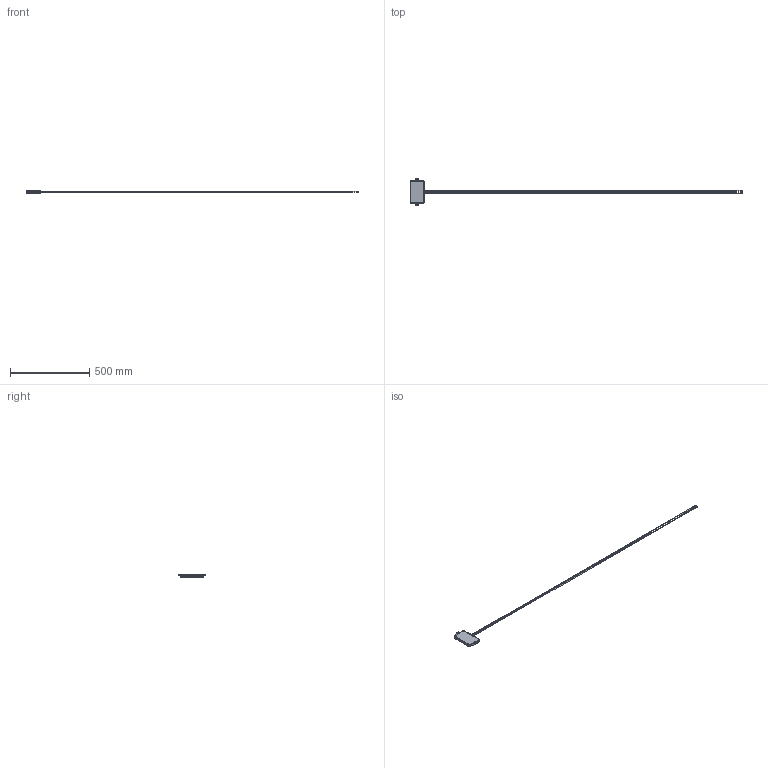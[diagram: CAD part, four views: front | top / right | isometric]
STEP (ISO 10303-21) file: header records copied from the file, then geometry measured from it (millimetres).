
FILE_DESCRIPTION((''),'2;1');
FILE_NAME('1004239-001_A_DUMMY_ASM','2019-10-08T',('fsanchez'),(''),'CREO PARAMETRIC BY PTC INC, 2016130','CREO PARAMETRIC BY PTC INC, 2016130','');
FILE_SCHEMA(('CONFIG_CONTROL_DESIGN','GEOMETRIC_VALIDATION_PROPERTIES_MIM'));
Length unit declared in the file: millimetre
Products named in the file (12): 1004244-A01_1; 1004245_1; 1004241-ROUTING_1_AF0; 1003411_1; 1004241-ROUTING_ASM_1_AF0_ASM; 1004243-ROUTING_1_AF0; 1004243-ROUTING_ASM_1_AF0_ASM; 1004267-ROUTING_ASM_1_AF0_ASM; 1004531_ASM_1_AF0_ASM; 1005042_1; 1004239-001_ASM_1_AF0_ASM; 1004239-001_A_DUMMY_ASM
Assembly tree (12 placements, depth 6):
  1004239-001_A_DUMMY_ASM
    1004239-001_ASM_1_AF0_ASM
      1004531_ASM_1_AF0_ASM
        1004244-A01_1
        1004245_1
        1004267-ROUTING_ASM_1_AF0_ASM
          1004241-ROUTING_ASM_1_AF0_ASM
            1004241-ROUTING_1_AF0
            1003411_1
          1004243-ROUTING_ASM_1_AF0_ASM
            1004243-ROUTING_1_AF0
            1003411_1
      1005042_1
Bounding box: 2090 x 167 x 17.25 mm (x, y, z)
Volume: 286702.2 mm3; surface area: 126147 mm2
Topology: 7 solids, 7 shells, 1055 faces, 2870 edges, 1904 vertices
Faces by surface type: plane 778, extrusion 169, cylinder 60, cone 32, torus 16
Entity records: 42655 total; most frequent: CARTESIAN_POINT 7276, ORIENTED_EDGE 5592, DIRECTION 4575, PRESENTATION_STYLE_ASSIGNMENT 2906, STYLED_ITEM 2824, CURVE_STYLE 2796, EDGE_CURVE 2796, VECTOR 2449
